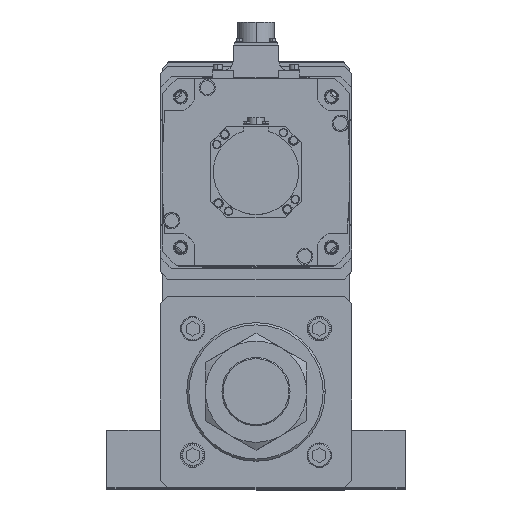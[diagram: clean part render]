
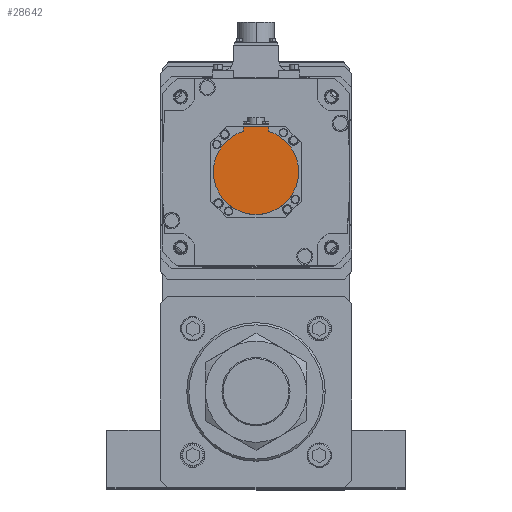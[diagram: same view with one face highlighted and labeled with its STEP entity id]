
A CAD part, top view. The second image highlights one B-rep face of the part: STEP entity #28642.
In plain terms, the highlighted planar face has unit normal (0, 0, 1) as drawn and (0, 0, -1) by its records, which use the part's own axes.
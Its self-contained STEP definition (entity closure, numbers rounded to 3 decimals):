
#841 = ORIENTED_EDGE ( 'NONE', *, *, #30570, .F. ) ;
#1214 = LINE ( 'NONE', #18918, #43560 ) ;
#2940 = DIRECTION ( 'NONE',  ( 1., 0., 0. ) ) ;
#3120 = DIRECTION ( 'NONE',  ( 0., 0., 1. ) ) ;
#6760 = VERTEX_POINT ( 'NONE', #52202 ) ;
#7427 = PLANE ( 'NONE',  #23930 ) ;
#10158 = FACE_OUTER_BOUND ( 'NONE', #18249, .T. ) ;
#10629 = EDGE_CURVE ( 'NONE', #47452, #38223, #1214, .T. ) ;
#12258 = CARTESIAN_POINT ( 'NONE',  ( 12., -42.5, -178.5 ) ) ;
#14471 = VECTOR ( 'NONE', #39028, 1000. ) ;
#14520 = VECTOR ( 'NONE', #50962, 1000. ) ;
#15504 = CARTESIAN_POINT ( 'NONE',  ( -12., -38.158, -178.5 ) ) ;
#16050 = DIRECTION ( 'NONE',  ( 1., 0., 0. ) ) ;
#18095 = CARTESIAN_POINT ( 'NONE',  ( 0., -42.5, -178.5 ) ) ;
#18249 = EDGE_LOOP ( 'NONE', ( #24743, #20742, #50116, #24642, #841, #48592 ) ) ;
#18918 = CARTESIAN_POINT ( 'NONE',  ( -12., -40.329, -178.5 ) ) ;
#19199 = CARTESIAN_POINT ( 'NONE',  ( 0., -1.249, -178.5 ) ) ;
#20742 = ORIENTED_EDGE ( 'NONE', *, *, #44355, .F. ) ;
#22676 = VERTEX_POINT ( 'NONE', #33663 ) ;
#23423 = EDGE_CURVE ( 'NONE', #6760, #28776, #34218, .T. ) ;
#23930 = AXIS2_PLACEMENT_3D ( 'NONE', #19199, #3120, #2940 ) ;
#24642 = ORIENTED_EDGE ( 'NONE', *, *, #23423, .F. ) ;
#24743 = ORIENTED_EDGE ( 'NONE', *, *, #10629, .T. ) ;
#27845 = VERTEX_POINT ( 'NONE', #12258 ) ;
#28642 = ADVANCED_FACE ( 'NONE', ( #10158 ), #7427, .F. ) ;
#28776 = VERTEX_POINT ( 'NONE', #44527 ) ;
#29901 = CARTESIAN_POINT ( 'NONE',  ( 0., 0., -178.5 ) ) ;
#29971 = EDGE_CURVE ( 'NONE', #27845, #47452, #42066, .T. ) ;
#30089 = EDGE_CURVE ( 'NONE', #28776, #22676, #44682, .T. ) ;
#30570 = EDGE_CURVE ( 'NONE', #27845, #6760, #51055, .T. ) ;
#31919 = DIRECTION ( 'NONE',  ( 1., 0., 0. ) ) ;
#33663 = CARTESIAN_POINT ( 'NONE',  ( -40., 0., -178.5 ) ) ;
#34044 = DIRECTION ( 'NONE',  ( 0., 0., 1. ) ) ;
#34218 = CIRCLE ( 'NONE', #47522, 40. ) ;
#35383 = CARTESIAN_POINT ( 'NONE',  ( -12., -42.5, -178.5 ) ) ;
#35707 = DIRECTION ( 'NONE',  ( 0., 0., 1. ) ) ;
#38160 = DIRECTION ( 'NONE',  ( 1., 0., 0. ) ) ;
#38223 = VERTEX_POINT ( 'NONE', #15504 ) ;
#39028 = DIRECTION ( 'NONE',  ( 0., 1., 0. ) ) ;
#39555 = DIRECTION ( 'NONE',  ( 0., 1., 0. ) ) ;
#40604 = CARTESIAN_POINT ( 'NONE',  ( 0., 0., -178.5 ) ) ;
#42066 = LINE ( 'NONE', #18095, #14520 ) ;
#43560 = VECTOR ( 'NONE', #39555, 1000. ) ;
#44140 = CARTESIAN_POINT ( 'NONE',  ( 0., 0., -178.5 ) ) ;
#44355 = EDGE_CURVE ( 'NONE', #22676, #38223, #51456, .T. ) ;
#44527 = CARTESIAN_POINT ( 'NONE',  ( 40., 0., -178.5 ) ) ;
#44682 = CIRCLE ( 'NONE', #48082, 40. ) ;
#47452 = VERTEX_POINT ( 'NONE', #35383 ) ;
#47522 = AXIS2_PLACEMENT_3D ( 'NONE', #29901, #34044, #38160 ) ;
#48082 = AXIS2_PLACEMENT_3D ( 'NONE', #44140, #35707, #31919 ) ;
#48592 = ORIENTED_EDGE ( 'NONE', *, *, #29971, .T. ) ;
#50116 = ORIENTED_EDGE ( 'NONE', *, *, #30089, .F. ) ;
#50522 = AXIS2_PLACEMENT_3D ( 'NONE', #40604, #52495, #16050 ) ;
#50962 = DIRECTION ( 'NONE',  ( -1., 0., 0. ) ) ;
#51055 = LINE ( 'NONE', #51796, #14471 ) ;
#51456 = CIRCLE ( 'NONE', #50522, 40. ) ;
#51796 = CARTESIAN_POINT ( 'NONE',  ( 12., -1.249, -178.5 ) ) ;
#52202 = CARTESIAN_POINT ( 'NONE',  ( 12., -38.158, -178.5 ) ) ;
#52495 = DIRECTION ( 'NONE',  ( 0., 0., 1. ) ) ;
